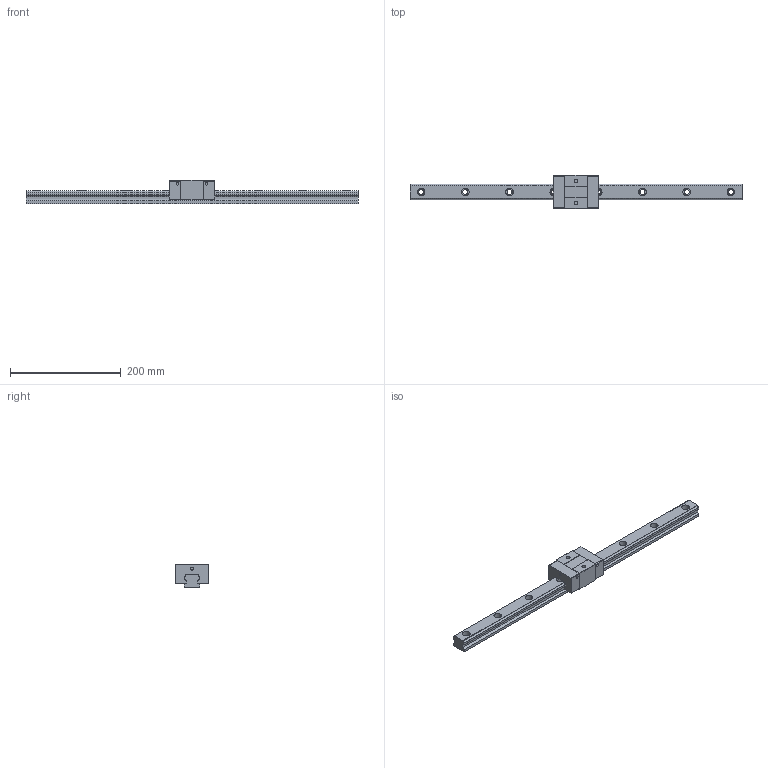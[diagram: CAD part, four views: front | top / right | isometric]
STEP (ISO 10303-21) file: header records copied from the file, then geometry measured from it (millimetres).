
FILE_DESCRIPTION (( 'STEP AP203' ), '1' );
FILE_NAME ('TRS30VS-SU.STEP', '2024-07-11T08:35:24', ( '' ), ( '' ), 'SwSTEP 2.0', 'SolidWorks 2022', '' );
FILE_SCHEMA (( 'CONFIG_CONTROL_DESIGN' ));
Length unit declared in the file: millimetre
Products named in the file (1): TRS30VS-SU
Bounding box: 600 x 60 x 42 mm (x, y, z)
Volume: 456052.8 mm3; surface area: 92602.9 mm2
Topology: 2 solids, 2 shells, 172 faces, 452 edges, 300 vertices
Faces by surface type: plane 88, cylinder 84
Entity records: 5459 total; most frequent: DIRECTION 966, CARTESIAN_POINT 925, ORIENTED_EDGE 904, EDGE_CURVE 452, AXIS2_PLACEMENT_3D 341, VERTEX_POINT 300, LINE 284, VECTOR 284
